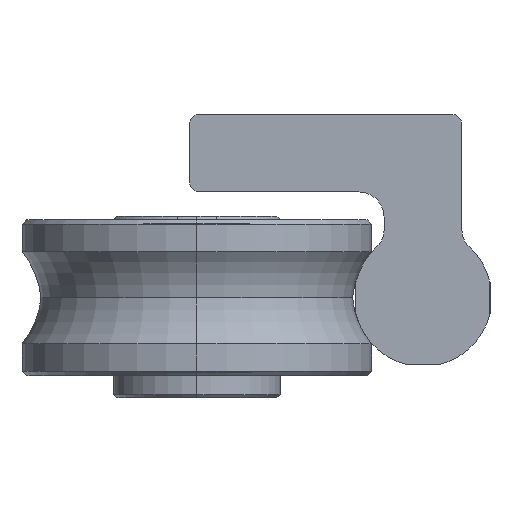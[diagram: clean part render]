
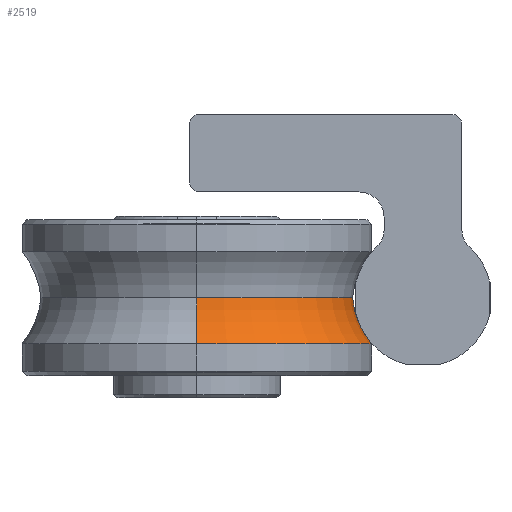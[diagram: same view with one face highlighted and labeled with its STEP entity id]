
A CAD part, left-side view. The second image highlights one B-rep face of the part: STEP entity #2519.
In plain terms, the highlighted toroidal (fillet/blend) face has major radius 21.47 mm and minor radius 7.5 mm.
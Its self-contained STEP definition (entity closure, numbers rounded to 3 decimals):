
#79 = EDGE_CURVE ( 'NONE', #3044, #1551, #1694, .T. ) ;
#99 = CARTESIAN_POINT ( 'NONE',  ( 7., 0., 13.998 ) ) ;
#296 = CIRCLE ( 'NONE', #927, 7.5 ) ;
#629 = FACE_OUTER_BOUND ( 'NONE', #1900, .T. ) ;
#760 = ORIENTED_EDGE ( 'NONE', *, *, #3315, .T. ) ;
#862 = ORIENTED_EDGE ( 'NONE', *, *, #1352, .F. ) ;
#927 = AXIS2_PLACEMENT_3D ( 'NONE', #2529, #1068, #3322 ) ;
#1010 = DIRECTION ( 'NONE',  ( 0., 0., 1. ) ) ;
#1039 = DIRECTION ( 'NONE',  ( 1., 0., 0. ) ) ;
#1068 = DIRECTION ( 'NONE',  ( 0., -1., 0. ) ) ;
#1352 = EDGE_CURVE ( 'NONE', #1471, #4144, #4710, .T. ) ;
#1355 = CARTESIAN_POINT ( 'NONE',  ( 11.141, 0., 0. ) ) ;
#1460 = AXIS2_PLACEMENT_3D ( 'NONE', #1355, #1039, #2538 ) ;
#1471 = VERTEX_POINT ( 'NONE', #1677 ) ;
#1551 = VERTEX_POINT ( 'NONE', #99 ) ;
#1677 = CARTESIAN_POINT ( 'NONE',  ( 11.141, 0., -15.7 ) ) ;
#1694 = CIRCLE ( 'NONE', #4228, 13.998 ) ;
#1715 = TOROIDAL_SURFACE ( 'NONE', #3934, 21.47, 7.5 ) ;
#1731 = CIRCLE ( 'NONE', #3077, 7.5 ) ;
#1734 = CARTESIAN_POINT ( 'NONE',  ( 6.35, 0., 0. ) ) ;
#1900 = EDGE_LOOP ( 'NONE', ( #3100, #862, #760, #4443 ) ) ;
#2123 = DIRECTION ( 'NONE',  ( 0., 0., -1. ) ) ;
#2486 = CARTESIAN_POINT ( 'NONE',  ( 7., 0., 0. ) ) ;
#2519 = ADVANCED_FACE ( 'NONE', ( #629 ), #1715, .F. ) ;
#2529 = CARTESIAN_POINT ( 'NONE',  ( 6.35, 0., -21.47 ) ) ;
#2538 = DIRECTION ( 'NONE',  ( 0., 0., -1. ) ) ;
#2844 = DIRECTION ( 'NONE',  ( 0., 0., -1. ) ) ;
#3044 = VERTEX_POINT ( 'NONE', #4614 ) ;
#3077 = AXIS2_PLACEMENT_3D ( 'NONE', #4723, #3725, #1010 ) ;
#3100 = ORIENTED_EDGE ( 'NONE', *, *, #4573, .F. ) ;
#3315 = EDGE_CURVE ( 'NONE', #1471, #3044, #296, .T. ) ;
#3322 = DIRECTION ( 'NONE',  ( 0., 0., -1. ) ) ;
#3725 = DIRECTION ( 'NONE',  ( 0., 1., 0. ) ) ;
#3934 = AXIS2_PLACEMENT_3D ( 'NONE', #1734, #4381, #2123 ) ;
#4144 = VERTEX_POINT ( 'NONE', #4432 ) ;
#4228 = AXIS2_PLACEMENT_3D ( 'NONE', #2486, #4398, #2844 ) ;
#4381 = DIRECTION ( 'NONE',  ( 1., 0., 0. ) ) ;
#4398 = DIRECTION ( 'NONE',  ( 1., 0., 0. ) ) ;
#4432 = CARTESIAN_POINT ( 'NONE',  ( 11.141, 0., 15.7 ) ) ;
#4443 = ORIENTED_EDGE ( 'NONE', *, *, #79, .T. ) ;
#4573 = EDGE_CURVE ( 'NONE', #4144, #1551, #1731, .T. ) ;
#4614 = CARTESIAN_POINT ( 'NONE',  ( 7., 0., -13.998 ) ) ;
#4710 = CIRCLE ( 'NONE', #1460, 15.7 ) ;
#4723 = CARTESIAN_POINT ( 'NONE',  ( 6.35, 0., 21.47 ) ) ;
